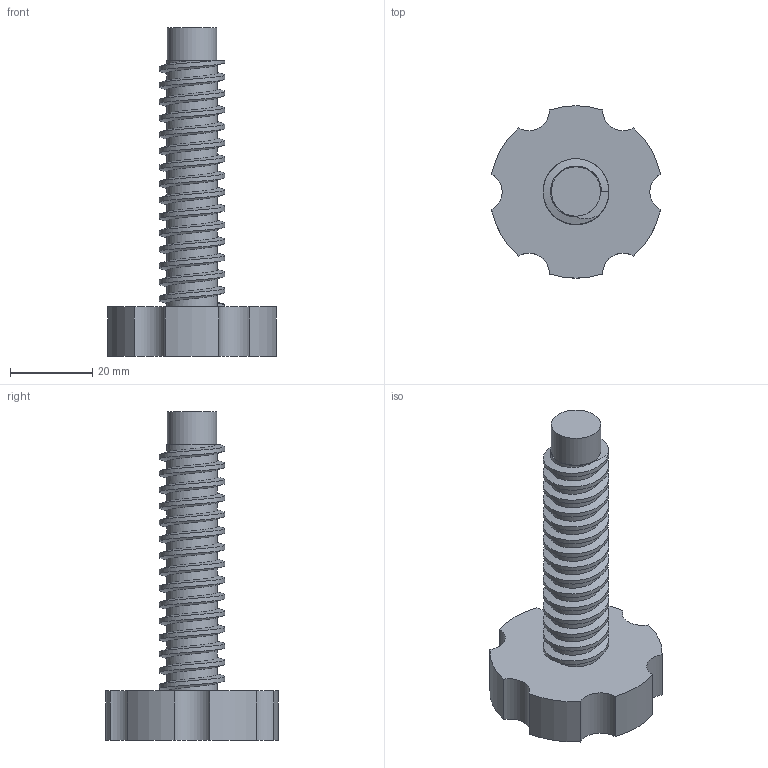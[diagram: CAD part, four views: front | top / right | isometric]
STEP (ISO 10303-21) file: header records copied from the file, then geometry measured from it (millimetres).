
FILE_DESCRIPTION(('Open CASCADE Model'),'2;1');
FILE_NAME('Open CASCADE Shape Model','2026-09-21T16:06:43',('Author'),( 'Open CASCADE'),'Open CASCADE STEP processor 7.9','Open CASCADE 7.9' ,'Unknown');
FILE_SCHEMA(('AUTOMOTIVE_DESIGN { 1 0 10303 214 1 1 1 1 }'));
Length unit declared in the file: millimetre
Products named in the file (1): Open CASCADE STEP translator 7.9 4
Bounding box: 41.09 x 42 x 80 mm (x, y, z)
Volume: 25235.2 mm3; surface area: 8994.1 mm2
Topology: 1 solids, 1 shells, 38 faces, 100 edges, 66 vertices
Faces by surface type: cylinder 29, plane 6, bspline 3
Full cylindrical faces by diameter (mm): 12 x1, 12.4 x14
Entity records: 10541 total; most frequent: CARTESIAN_POINT 8771, DIRECTION 254, ORIENTED_EDGE 200, PCURVE 200, DEFINITIONAL_REPRESENTATION 200, B_SPLINE_CURVE_WITH_KNOTS 136, LINE 108, VECTOR 108
